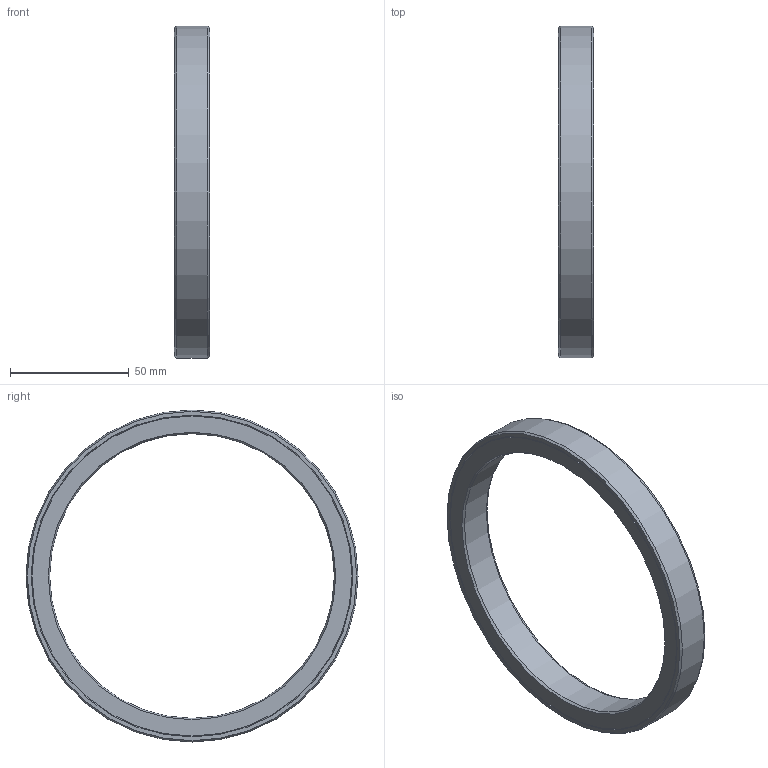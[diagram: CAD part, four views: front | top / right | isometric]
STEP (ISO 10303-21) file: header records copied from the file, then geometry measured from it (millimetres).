
FILE_DESCRIPTION(/* description */ (''),/* implementation_level */ '2;1');
FILE_NAME(/* name */ '301293 L 120x140x15.stp',/* time_stamp */ '2016-12-15T10:16:05+01:00',/* author */ (''),/* organization */ (''),/* preprocessor_version */ 'ST-DEVELOPER v15',/* originating_system */ 'SIEMENS PLM Software NX 8.5',/* authorisation */ '');
FILE_SCHEMA (('CONFIG_CONTROL_DESIGN'));
Length unit declared in the file: millimetre
Products named in the file (1): ATE0000122_01
Bounding box: 15 x 140 x 140 mm (x, y, z)
Volume: 58780.8 mm3; surface area: 32849.6 mm2
Topology: 2 solids, 2 shells, 18 faces, 34 edges, 20 vertices
Faces by surface type: cone 12, plane 4, cylinder 2
Full cylindrical faces by diameter (mm): 120 x1, 140 x1
Entity records: 454 total; most frequent: DIRECTION 74, CARTESIAN_POINT 55, AXIS2_PLACEMENT_3D 37, FACE_BOUND 36, EDGE_LOOP 36, ORIENTED_EDGE 36, ADVANCED_FACE 18, VERTEX_POINT 18
